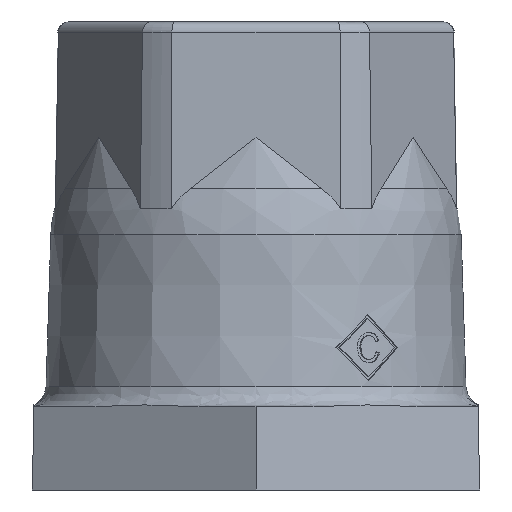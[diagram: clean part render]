
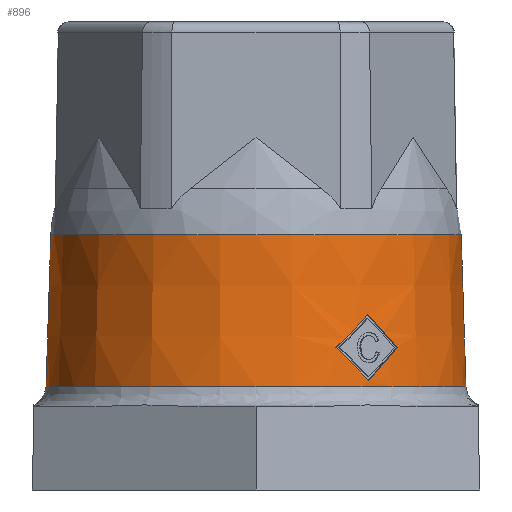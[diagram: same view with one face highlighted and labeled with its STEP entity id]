
A CAD part, front view. The second image highlights one B-rep face of the part: STEP entity #896.
In plain terms, the highlighted conical face has half-angle 1.8 degrees and reference radius 20.25 mm.
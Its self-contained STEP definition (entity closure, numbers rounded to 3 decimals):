
#212=CARTESIAN_POINT('',(7.703,-18.534,13.701));
#213=VERTEX_POINT('',#212);
#214=CARTESIAN_POINT('',(10.757,-16.827,16.852));
#215=VERTEX_POINT('',#214);
#216=CARTESIAN_POINT('',(-0.496,-0.274,15.181));
#217=DIRECTION('',(-0.586,-0.323,0.743));
#218=DIRECTION('',(0.651,0.359,0.669));
#219=AXIS2_PLACEMENT_3D('',#216,#217,#218);
#220=ELLIPSE('',#219,26.944,20.016);
#221=EDGE_CURVE('',#213,#215,#220,.T.);
#244=CARTESIAN_POINT('',(13.603,-14.758,13.696));
#245=VERTEX_POINT('',#244);
#246=CARTESIAN_POINT('',(0.484,0.292,16.807));
#247=DIRECTION('',(0.573,0.346,0.743));
#248=DIRECTION('',(0.636,0.384,-0.669));
#249=AXIS2_PLACEMENT_3D('',#246,#247,#248);
#250=ELLIPSE('',#249,26.875,19.965);
#251=EDGE_CURVE('',#215,#245,#250,.T.);
#312=CARTESIAN_POINT('',(10.856,-16.999,10.556));
#313=VERTEX_POINT('',#312);
#314=CARTESIAN_POINT('',(0.489,0.295,10.503));
#315=DIRECTION('',(-0.573,-0.346,-0.743));
#316=DIRECTION('',(0.636,0.384,-0.669));
#317=AXIS2_PLACEMENT_3D('',#314,#315,#316);
#318=ELLIPSE('',#317,27.142,20.163);
#319=EDGE_CURVE('',#313,#213,#318,.T.);
#337=CARTESIAN_POINT('',(-0.501,-0.276,8.877));
#338=DIRECTION('',(0.586,0.323,-0.743));
#339=DIRECTION('',(0.651,0.359,0.669));
#340=AXIS2_PLACEMENT_3D('',#337,#338,#339);
#341=ELLIPSE('',#340,27.211,20.214);
#342=EDGE_CURVE('',#245,#313,#341,.T.);
#863=CARTESIAN_POINT('',(0.,0.,8.));
#864=DIRECTION('',(0.,0.,-1.0));
#865=DIRECTION('',(-1.0,0.0,0.0));
#866=AXIS2_PLACEMENT_3D('',#863,#864,#865);
#867=CONICAL_SURFACE('',#866,20.25,1.8);
#868=CARTESIAN_POINT('',(20.189,0.,9.937));
#869=VERTEX_POINT('',#868);
#870=CARTESIAN_POINT('',(0.,0.,9.937));
#871=DIRECTION('',(0.0,0.0,-1.0));
#872=DIRECTION('',(-1.0,0.0,0.0));
#873=AXIS2_PLACEMENT_3D('',#870,#871,#872);
#874=CIRCLE('',#873,20.189);
#875=EDGE_CURVE('',#869,#869,#874,.T.);
#876=ORIENTED_EDGE('',*,*,#875,.F.);
#877=EDGE_LOOP('',(#876));
#878=FACE_OUTER_BOUND('',#877,.T.);
#879=CARTESIAN_POINT('',(-19.73,0.,24.561));
#880=VERTEX_POINT('',#879);
#881=CARTESIAN_POINT('',(0.,0.,24.561));
#882=DIRECTION('',(0.0,0.0,1.0));
#883=DIRECTION('',(1.0,0.0,0.0));
#884=AXIS2_PLACEMENT_3D('',#881,#882,#883);
#885=CIRCLE('',#884,19.73);
#886=EDGE_CURVE('',#880,#880,#885,.T.);
#887=ORIENTED_EDGE('',*,*,#886,.F.);
#888=EDGE_LOOP('',(#887));
#889=FACE_BOUND('',#888,.T.);
#890=ORIENTED_EDGE('',*,*,#221,.T.);
#891=ORIENTED_EDGE('',*,*,#251,.T.);
#892=ORIENTED_EDGE('',*,*,#342,.T.);
#893=ORIENTED_EDGE('',*,*,#319,.T.);
#894=EDGE_LOOP('',(#890,#891,#892,#893));
#895=FACE_BOUND('',#894,.T.);
#896=ADVANCED_FACE('',(#878,#889,#895),#867,.T.);
